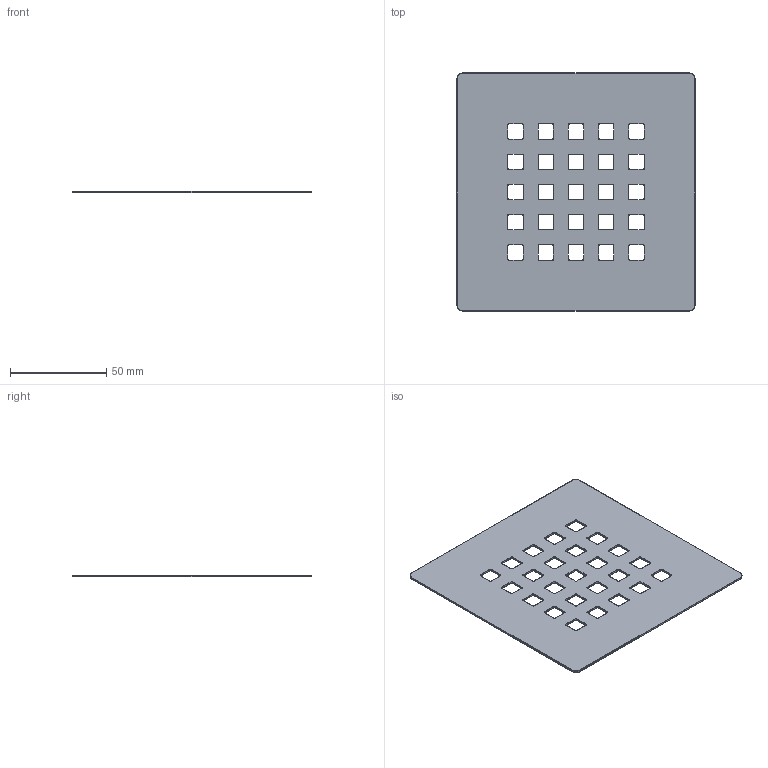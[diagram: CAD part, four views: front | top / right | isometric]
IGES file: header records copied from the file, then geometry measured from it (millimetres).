
Start section: SolidWorks IGES file using analytic representation for surfaces               : alfa-2706_asm.igs
Global section: file name: C:\Users\Utente; native system: Rhinoceros ( Aug 11 2021 ); preprocessor: Trout Lake IGES 012 Aug 11 2021; date: 210929.061640; units: millimetre
Bounding box: 123.83 x 123.83 x 0.98 mm (x, y, z)
Surface area: 28702.6 mm2 (no closed solid volume)
Topology: 0 solids, 0 shells, 626 faces, 2912 edges, 2912 vertices
Faces by surface type: bspline 626
